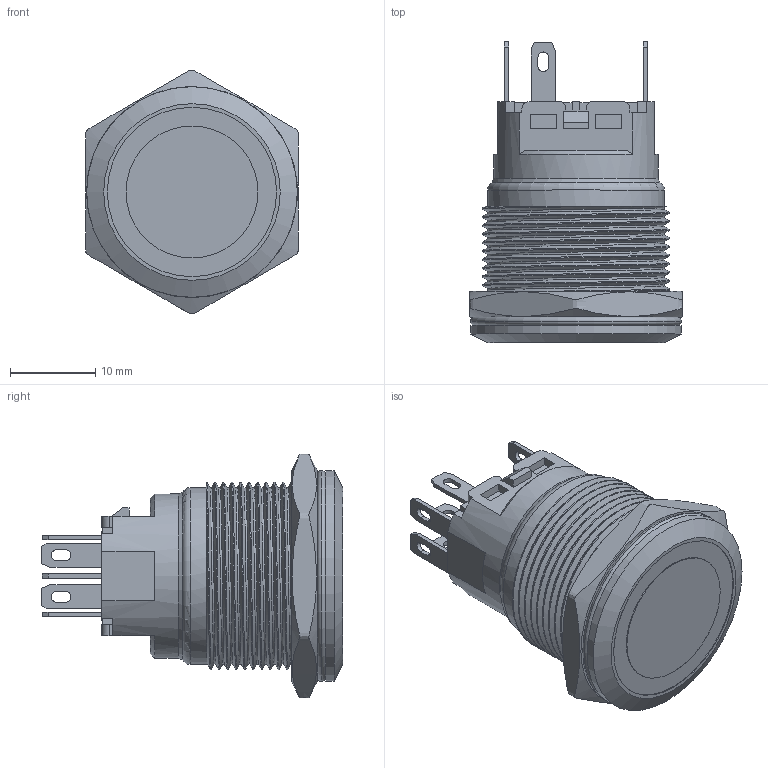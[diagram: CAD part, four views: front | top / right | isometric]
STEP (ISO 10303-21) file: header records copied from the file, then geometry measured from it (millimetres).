
FILE_DESCRIPTION(/* description */ (''),/* implementation_level */ '2;1');
FILE_NAME(/* name */ 'jhc-2023-05-12a2.stp',/* time_stamp */ '2023-05-13T12:44:58+08:00',/* author */ (''),/* organization */ (''),/* preprocessor_version */ 'ST-DEVELOPER v16.7',/* originating_system */ 'SIEMENS PLM Software NX 12.0',/* authorisation */ '');
FILE_SCHEMA (('AUTOMOTIVE_DESIGN { 1 0 10303 214 3 1 1 1 }'));
Length unit declared in the file: millimetre
Products named in the file (1): QAQ6D30C8E9kpch
Bounding box: 25.01 x 35.4 x 28.64 mm (x, y, z)
Volume: 9854.2 mm3; surface area: 4748.4 mm2
Topology: 2 solids, 2 shells, 289 faces, 760 edges, 493 vertices
Faces by surface type: plane 236, cylinder 39, cone 6, bspline 4, torus 3, extrusion 1
Full cylindrical faces by diameter (mm): 15.5 x1, 19.3 x1, 19.9 x1, 20.8 x14, 24.75 x1
Entity records: 16097 total; most frequent: CARTESIAN_POINT 9314, ORIENTED_EDGE 1408, DIRECTION 1304, EDGE_CURVE 704, VECTOR 606, LINE 605, VERTEX_POINT 463, AXIS2_PLACEMENT_3D 349
